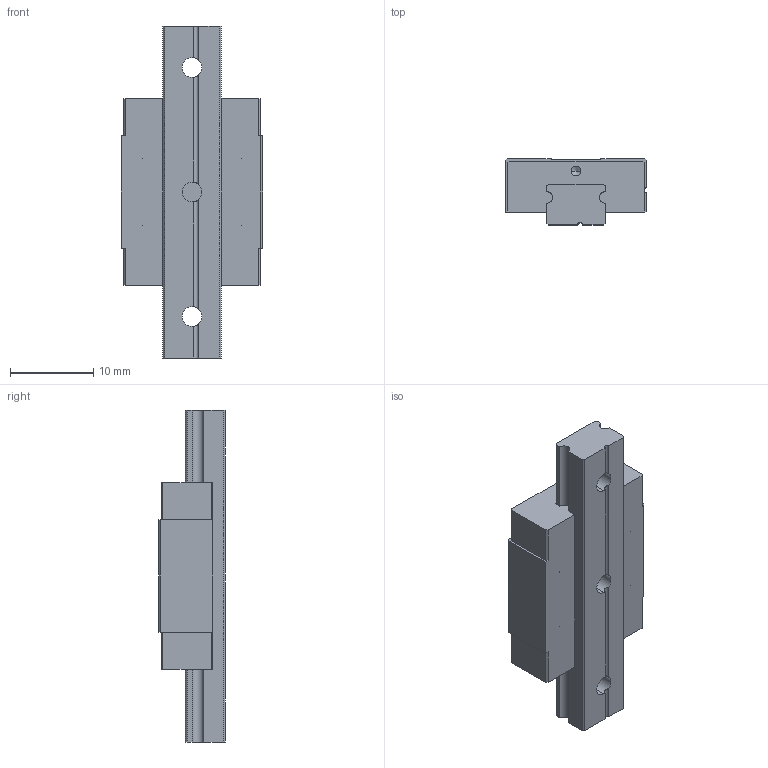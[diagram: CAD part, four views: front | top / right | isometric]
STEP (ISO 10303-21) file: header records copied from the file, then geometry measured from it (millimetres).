
FILE_DESCRIPTION (( 'STEP AP214' ), '1' );
FILE_NAME ('7.1038 Lineaarikelkka MTN7C.STEP', '2026-03-13T11:39:15', ( '' ), ( '' ), 'SwSTEP 2.0', 'SolidWorks 2025', '' );
FILE_SCHEMA (( 'AUTOMOTIVE_DESIGN' ));
Length unit declared in the file: millimetre
Products named in the file (1): 7.1038 Lineaarikelkka MTN7C
Bounding box: 17 x 8 x 40 mm (x, y, z)
Volume: 2994.4 mm3; surface area: 2751.5 mm2
Topology: 2 solids, 3 shells, 210 faces, 560 edges, 362 vertices
Faces by surface type: plane 133, cylinder 38, bspline 27, cone 12
Entity records: 10396 total; most frequent: CARTESIAN_POINT 2998, ORIENTED_EDGE 1096, DIRECTION 932, EDGE_CURVE 548, LINE 412, VECTOR 412, VERTEX_POINT 362, AXIS2_PLACEMENT_3D 260
